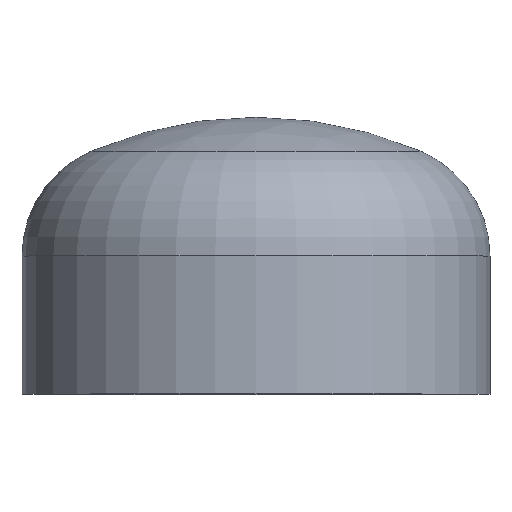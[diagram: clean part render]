
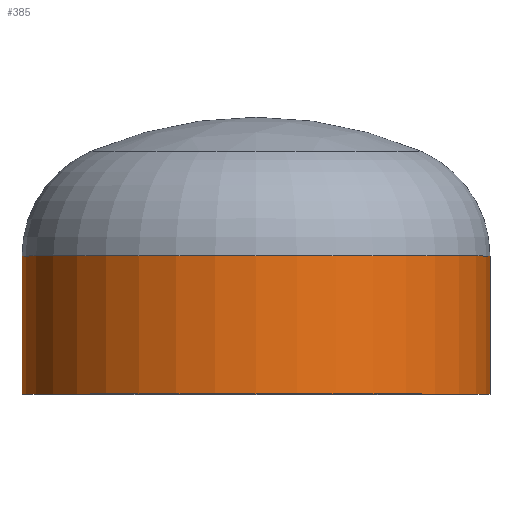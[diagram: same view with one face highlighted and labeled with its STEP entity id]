
A CAD part, top view. The second image highlights one B-rep face of the part: STEP entity #385.
In plain terms, the highlighted cylindrical face has radius 203.2 mm (diameter 406.4 mm), a partial arc.
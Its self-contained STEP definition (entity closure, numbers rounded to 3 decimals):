
#12 = CARTESIAN_POINT ( 'NONE',  ( -203.2, 0., 0. ) ) ;
#49 = VERTEX_POINT ( 'NONE', #334 ) ;
#54 = EDGE_CURVE ( 'NONE', #49, #343, #304, .T. ) ;
#80 = DIRECTION ( 'NONE',  ( 1., 0., 0. ) ) ;
#95 = ORIENTED_EDGE ( 'NONE', *, *, #157, .F. ) ;
#98 = EDGE_CURVE ( 'NONE', #49, #139, #231, .T. ) ;
#113 = CARTESIAN_POINT ( 'NONE',  ( -203.2, 120., 0. ) ) ;
#116 = CIRCLE ( 'NONE', #364, 203.2 ) ;
#127 = DIRECTION ( 'NONE',  ( 0., -1., 0. ) ) ;
#131 = DIRECTION ( 'NONE',  ( 0., -1., 0. ) ) ;
#134 = CARTESIAN_POINT ( 'NONE',  ( -203.2, 0., 0. ) ) ;
#138 = ORIENTED_EDGE ( 'NONE', *, *, #225, .T. ) ;
#139 = VERTEX_POINT ( 'NONE', #356 ) ;
#157 = EDGE_CURVE ( 'NONE', #139, #253, #116, .T. ) ;
#166 = EDGE_LOOP ( 'NONE', ( #179, #138, #95, #391 ) ) ;
#179 = ORIENTED_EDGE ( 'NONE', *, *, #54, .T. ) ;
#206 = CARTESIAN_POINT ( 'NONE',  ( 0., 0., 0. ) ) ;
#210 = CARTESIAN_POINT ( 'NONE',  ( 0., 0., 0. ) ) ;
#219 = AXIS2_PLACEMENT_3D ( 'NONE', #314, #312, #311 ) ;
#222 = VECTOR ( 'NONE', #302, 1000. ) ;
#225 = EDGE_CURVE ( 'NONE', #343, #253, #351, .T. ) ;
#226 = CYLINDRICAL_SURFACE ( 'NONE', #361, 203.2 ) ;
#231 = LINE ( 'NONE', #257, #222 ) ;
#253 = VERTEX_POINT ( 'NONE', #12 ) ;
#257 = CARTESIAN_POINT ( 'NONE',  ( 203.2, 0., 0. ) ) ;
#269 = VECTOR ( 'NONE', #131, 1000. ) ;
#302 = DIRECTION ( 'NONE',  ( 0., -1., 0. ) ) ;
#304 = CIRCLE ( 'NONE', #219, 203.2 ) ;
#309 = FACE_OUTER_BOUND ( 'NONE', #166, .T. ) ;
#311 = DIRECTION ( 'NONE',  ( 1., 0., 0. ) ) ;
#312 = DIRECTION ( 'NONE',  ( 0., -1., 0. ) ) ;
#314 = CARTESIAN_POINT ( 'NONE',  ( 0., 120., 0. ) ) ;
#319 = DIRECTION ( 'NONE',  ( 1., 0., 0. ) ) ;
#334 = CARTESIAN_POINT ( 'NONE',  ( 203.2, 120., 0. ) ) ;
#343 = VERTEX_POINT ( 'NONE', #113 ) ;
#351 = LINE ( 'NONE', #134, #269 ) ;
#356 = CARTESIAN_POINT ( 'NONE',  ( 203.2, 0., 0. ) ) ;
#361 = AXIS2_PLACEMENT_3D ( 'NONE', #210, #375, #80 ) ;
#364 = AXIS2_PLACEMENT_3D ( 'NONE', #206, #127, #319 ) ;
#375 = DIRECTION ( 'NONE',  ( 0., -1., 0. ) ) ;
#385 = ADVANCED_FACE ( 'NONE', ( #309 ), #226, .T. ) ;
#391 = ORIENTED_EDGE ( 'NONE', *, *, #98, .F. ) ;
